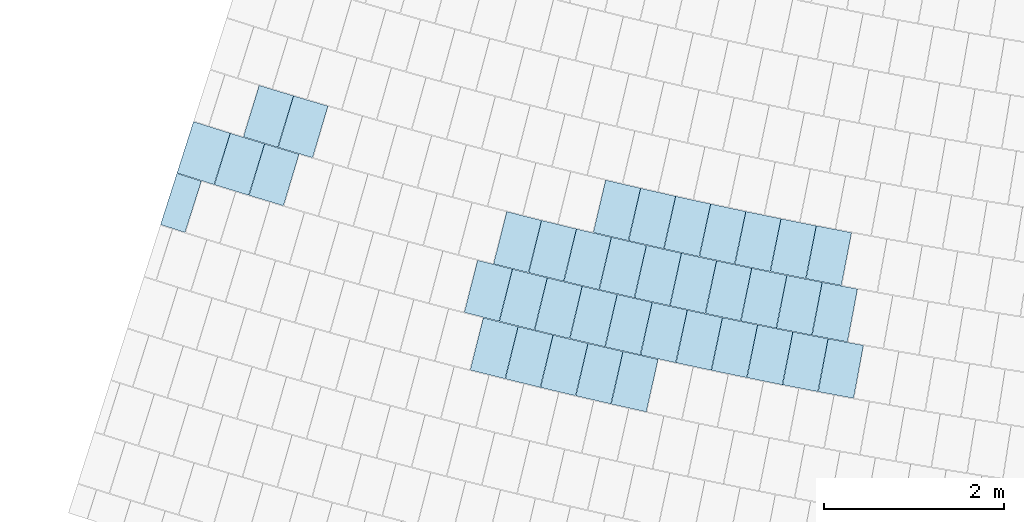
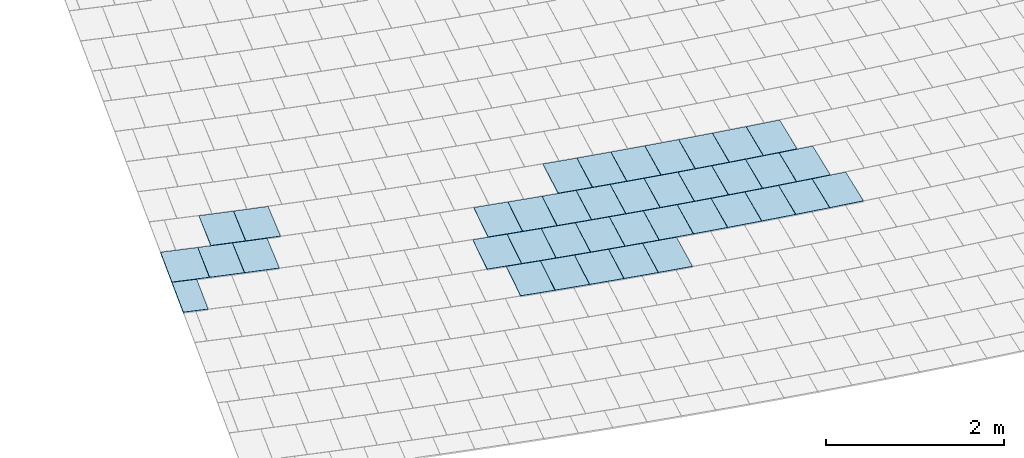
# One storey, part 19 of 438: 39 slabs.
"""IFC2X3 building model written with IfcOpenShell, lengths in millimetres."""

from ifc_helpers import new_model, entity, si_unit, converted_unit, derived_unit, direction, frame, origin, place, context, subcontext, project, spatial, polyline, outline, extrude, material, layer, layer_set, layer_usage, type_object, element, save


model = new_model("IFC2X3")

# Units and contexts
model_context = context("Model", 3, precision=0.01, world=origin(), true_north=direction((6.123031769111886e-17, 1.0)))
body_context = subcontext(model_context, "Body", "Model", "MODEL_VIEW")
ifc_project = project(units=[si_unit("LENGTHUNIT", "METRE", prefix="MILLI"), si_unit("AREAUNIT", "SQUARE_METRE"), si_unit("VOLUMEUNIT", "CUBIC_METRE"), converted_unit("PLANEANGLEUNIT", "DEGREE", entity("IfcRatioMeasure", 0.017453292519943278), si_unit("PLANEANGLEUNIT", "RADIAN"), dimensions=[0, 0, 0, 0, 0, 0, 0]), si_unit("MASSUNIT", "GRAM", prefix="KILO"), derived_unit("MASSDENSITYUNIT", [(si_unit("MASSUNIT", "GRAM", prefix="KILO"), 1), (si_unit("LENGTHUNIT", "METRE"), -3)]), derived_unit("MOMENTOFINERTIAUNIT", [(si_unit("LENGTHUNIT", "METRE"), 4)]), si_unit("TIMEUNIT", "SECOND"), si_unit("FREQUENCYUNIT", "HERTZ"), si_unit("THERMODYNAMICTEMPERATUREUNIT", "DEGREE_CELSIUS"), derived_unit("THERMALTRANSMITTANCEUNIT", [(si_unit("MASSUNIT", "GRAM", prefix="KILO"), 1), (si_unit("THERMODYNAMICTEMPERATUREUNIT", "KELVIN"), -1), (si_unit("TIMEUNIT", "SECOND"), -3)]), derived_unit("THERMALCONDUCTANCEUNIT", [(si_unit("MASSUNIT", "GRAM", prefix="KILO"), 1), (si_unit("LENGTHUNIT", "METRE"), 1), (si_unit("THERMODYNAMICTEMPERATUREUNIT", "KELVIN"), -1), (si_unit("TIMEUNIT", "SECOND"), -3)]), derived_unit("VOLUMETRICFLOWRATEUNIT", [(si_unit("LENGTHUNIT", "METRE"), 3), (si_unit("TIMEUNIT", "SECOND"), -1)]), derived_unit("MASSFLOWRATEUNIT", [(si_unit("MASSUNIT", "GRAM", prefix="KILO"), 1), (si_unit("TIMEUNIT", "SECOND"), -1)]), derived_unit("ROTATIONALFREQUENCYUNIT", [(si_unit("TIMEUNIT", "SECOND"), -1)]), si_unit("ELECTRICCURRENTUNIT", "AMPERE"), si_unit("ELECTRICVOLTAGEUNIT", "VOLT"), si_unit("POWERUNIT", "WATT"), converted_unit("FORCEUNIT", "KIP", entity("IfcRatioMeasure", 2.088543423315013e-05), si_unit("FORCEUNIT", "NEWTON"), dimensions=[1, 1, -2, 0, 0, 0, 0]), si_unit("ILLUMINANCEUNIT", "LUX"), si_unit("LUMINOUSFLUXUNIT", "LUMEN"), si_unit("LUMINOUSINTENSITYUNIT", "CANDELA"), derived_unit("USERDEFINED", [(si_unit("MASSUNIT", "GRAM", prefix="KILO"), -1), (si_unit("LENGTHUNIT", "METRE"), -2), (si_unit("TIMEUNIT", "SECOND"), 3), (si_unit("LUMINOUSFLUXUNIT", "LUMEN"), 1)]), derived_unit("USERDEFINED", [(si_unit("MASSUNIT", "GRAM", prefix="KILO"), 1), (si_unit("LENGTHUNIT", "METRE"), 3), (si_unit("TIMEUNIT", "SECOND"), -3), (si_unit("ELECTRICCURRENTUNIT", "AMPERE"), -2)]), derived_unit("USERDEFINED", [(si_unit("LENGTHUNIT", "METRE"), 2), (si_unit("TIMEUNIT", "SECOND"), -2)]), derived_unit("SOUNDPOWERUNIT", [(si_unit("MASSUNIT", "GRAM", prefix="KILO"), 1), (si_unit("LENGTHUNIT", "METRE"), 2), (si_unit("TIMEUNIT", "SECOND"), -3)]), derived_unit("SOUNDPRESSUREUNIT", [(si_unit("MASSUNIT", "GRAM", prefix="KILO"), 1), (si_unit("LENGTHUNIT", "METRE"), -1), (si_unit("TIMEUNIT", "SECOND"), -2)]), derived_unit("LINEARVELOCITYUNIT", [(si_unit("LENGTHUNIT", "METRE"), 1), (si_unit("TIMEUNIT", "SECOND"), -1)]), si_unit("PRESSUREUNIT", "PASCAL"), derived_unit("USERDEFINED", [(si_unit("LENGTHUNIT", "METRE"), -2), (si_unit("MASSUNIT", "GRAM", prefix="KILO"), 1), (si_unit("TIMEUNIT", "SECOND"), -2)]), derived_unit("LINEARFORCEUNIT", [(si_unit("MASSUNIT", "GRAM", prefix="KILO"), 1), (si_unit("LENGTHUNIT", "METRE"), 1), (si_unit("TIMEUNIT", "SECOND"), -2), (si_unit("LENGTHUNIT", "METRE"), -1)]), derived_unit("PLANARFORCEUNIT", [(si_unit("MASSUNIT", "GRAM", prefix="KILO"), 1), (si_unit("LENGTHUNIT", "METRE"), 1), (si_unit("TIMEUNIT", "SECOND"), -2), (si_unit("LENGTHUNIT", "METRE"), -2)]), derived_unit("SPECIFICHEATCAPACITYUNIT", [(si_unit("LENGTHUNIT", "METRE"), 2), (si_unit("TIMEUNIT", "SECOND"), -2), (si_unit("THERMODYNAMICTEMPERATUREUNIT", "KELVIN"), -1)]), derived_unit("VAPORPERMEABILITYUNIT", [(si_unit("TIMEUNIT", "SECOND"), 1), (si_unit("LENGTHUNIT", "METRE"), -1)]), derived_unit("DYNAMICVISCOSITYUNIT", [(si_unit("MASSUNIT", "GRAM", prefix="KILO"), 1), (si_unit("LENGTHUNIT", "METRE"), -1), (si_unit("TIMEUNIT", "SECOND"), -1)]), derived_unit("THERMALEXPANSIONCOEFFICIENTUNIT", [(si_unit("THERMODYNAMICTEMPERATUREUNIT", "KELVIN"), -1)])], contexts=[model_context])

# Site, building, storey
site_placement = place(None, frame((0.0, 0.0, 0.0), z_axis=(0.0, 0.0, 1.0), x_axis=(0.8191520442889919, 0.5735764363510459, 0.0)))
site = spatial("IfcSite", under=ifc_project, at=site_placement, Name="Default", CompositionType="ELEMENT")
building_placement = place(site_placement, origin())
building = spatial("IfcBuilding", under=site, at=building_placement, CompositionType="ELEMENT")
storey_placement = place(building_placement, origin())
storey = spatial("IfcBuildingStorey", under=building, at=storey_placement, Name="PLAN", CompositionType="ELEMENT", Elevation=0.0)

# Slabs
ifc_material = material(Name="Paint-01")
ifc_layer = layer(ifc_material, 20.00000000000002)
ifc_layer_set = layer_set([ifc_layer], Name="Floor:Slab-179:1000")
ifc_layer_usage = layer_usage(ifc_layer_set, "AXIS3", "POSITIVE", 0.0)
slab_type = type_object("IfcSlabType", Name="Floor:Slab-179:1000", PredefinedType="FLOOR", material=ifc_layer_set)
slab_1_placement = place(storey_placement, origin())
element("IfcSlab", 1, at=slab_1_placement, inside=storey, type_object=slab_type, material=ifc_layer_usage, Name="Floor:Slab-179:1000", ObjectType="Floor:Slab-179:1000", PredefinedType="FLOOR", context=body_context, shape_type="SweptSolid", body=[
    extrude(outline(polyline([(-200.00000134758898, -299.99999869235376), (200.00000453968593, -299.99999869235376), (200.00000134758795, 299.9999986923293), (-200.00000453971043, 299.99999869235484), (-200.00000134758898, -299.99999869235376)])), frame((-85861.89515844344, -109762.17310328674, 520.0), z_axis=(0.0, 0.0, -1.0), x_axis=(0.676337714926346, -0.7365916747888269, 0.0)), (0.0, 0.0, 1.0), 19.999999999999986),
])
slab_2_placement = place(storey_placement, origin())
element("IfcSlab", 2, at=slab_2_placement, inside=storey, type_object=slab_type, material=ifc_layer_usage, Name="Floor:Slab-179:1000", ObjectType="Floor:Slab-179:1000", PredefinedType="FLOOR", context=body_context, shape_type="SweptSolid", body=[
    extrude(outline(polyline([(-200.00000134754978, -299.9999986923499), (200.0000045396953, -299.9999986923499), (200.0000013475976, 299.9999986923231), (-200.00000453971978, 299.99999869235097), (-200.00000134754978, -299.9999986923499)])), frame((-85551.9471191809, -109204.7226449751, 520.0), z_axis=(0.0, 0.0, -1.0), x_axis=(0.6739158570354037, -0.7388081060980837, 0.0)), (0.0, 0.0, 1.0), 20.000000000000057),
])
slab_3_placement = place(storey_placement, origin())
element("IfcSlab", 3, at=slab_3_placement, inside=storey, type_object=slab_type, material=ifc_layer_usage, Name="Floor:Slab-179:1000", ObjectType="Floor:Slab-179:1000", PredefinedType="FLOOR", context=body_context, shape_type="SweptSolid", body=[
    extrude(outline(polyline([(-200.00000134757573, -299.9999986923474), (200.0000045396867, -299.9999986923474), (200.0000013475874, 299.9999986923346), (-200.00000453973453, 299.9999986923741), (-200.00000134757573, -299.9999986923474)])), frame((-86443.2148564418, -110023.10974429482, 520.0), z_axis=(0.0, 0.0, -1.0), x_axis=(0.6739630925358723, -0.7387650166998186, 0.0)), (0.0, 0.0, 1.0), 20.000000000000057),
])
slab_4_placement = place(storey_placement, origin())
element("IfcSlab", 4, at=slab_4_placement, inside=storey, type_object=slab_type, material=ifc_layer_usage, Name="Floor:Slab-179:1000", ObjectType="Floor:Slab-179:1000", PredefinedType="FLOOR", context=body_context, shape_type="SweptSolid", body=[
    extrude(outline(polyline([(-200.00000134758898, -299.99999869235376), (200.00000453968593, -299.99999869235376), (200.0000013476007, 299.999998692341), (-200.00000453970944, 299.9999986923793), (-200.00000134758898, -299.99999869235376)])), frame((-84970.619231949, -108943.80446822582, 520.0), z_axis=(0.0, 0.0, -1.0), x_axis=(0.676337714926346, -0.7365916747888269, 0.0)), (0.0, 0.0, 1.0), 19.999999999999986),
])
slab_5_placement = place(storey_placement, origin())
element("IfcSlab", 5, at=slab_5_placement, inside=storey, type_object=slab_type, material=ifc_layer_usage, Name="Floor:Slab-179:1000", ObjectType="Floor:Slab-179:1000", PredefinedType="FLOOR", context=body_context, shape_type="SweptSolid", body=[
    extrude(outline(polyline([(-200.00000134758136, -299.9999986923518), (200.0000045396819, -299.9999986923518), (200.00000134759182, 299.99999869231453), (-200.000004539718, 299.99999869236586), (-200.00000134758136, -299.9999986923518)])), frame((-85241.51510024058, -108646.8040326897, 520.0), z_axis=(0.0, 0.0, -1.0), x_axis=(0.671437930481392, -0.7410607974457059, 0.0)), (0.0, 0.0, 1.0), 20.000000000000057),
])
slab_6_placement = place(storey_placement, origin())
element("IfcSlab", 6, at=slab_6_placement, inside=storey, type_object=slab_type, material=ifc_layer_usage, Name="Floor:Slab-179:1000", ObjectType="Floor:Slab-179:1000", PredefinedType="FLOOR", context=body_context, shape_type="SweptSolid", body=[
    extrude(outline(polyline([(-200.00000134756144, -299.9999986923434), (200.00000453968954, -299.99999869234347), (200.0000013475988, 299.99999869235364), (-200.0000045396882, 299.99999869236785), (-200.00000134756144, -299.9999986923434)])), frame((-85510.43537085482, -108348.01360744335, 520.0), z_axis=(0.0, 0.0, -1.0), x_axis=(0.6665086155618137, -0.7454973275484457, 0.0)), (0.0, 0.0, 1.0), 20.000000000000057),
])
slab_7_placement = place(storey_placement, origin())
element("IfcSlab", 7, at=slab_7_placement, inside=storey, type_object=slab_type, material=ifc_layer_usage, Name="Floor:Slab-179:1000", ObjectType="Floor:Slab-179:1000", PredefinedType="FLOOR", context=body_context, shape_type="SweptSolid", body=[
    extrude(outline(polyline([(-200.00000134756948, -299.9999986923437), (200.00000453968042, -299.9999986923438), (200.00000134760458, 299.9999986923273), (-200.0000045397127, 299.9999986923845), (-200.00000134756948, -299.9999986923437)])), frame((-87839.89347691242, -105580.54404082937, 520.0), z_axis=(0.0, 0.0, -1.0), x_axis=(0.6208521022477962, -0.7839277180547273, 0.0)), (0.0, 0.0, 1.0), 20.000000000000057),
])
slab_8_placement = place(storey_placement, origin())
element("IfcSlab", 8, at=slab_8_placement, inside=storey, type_object=slab_type, material=ifc_layer_usage, Name="Floor:Slab-179:1000", ObjectType="Floor:Slab-179:1000", PredefinedType="FLOOR", context=body_context, shape_type="SweptSolid", body=[
    extrude(outline(polyline([(-200.00000134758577, -299.99999869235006), (200.00000453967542, -299.99999869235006), (200.00000134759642, 299.99999869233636), (-200.00000453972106, 299.99999869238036), (-200.00000134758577, -299.99999869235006)])), frame((-88088.4218565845, -105264.58917908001, 520.0), z_axis=(0.0, 0.0, -1.0), x_axis=(0.615639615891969, -0.7880278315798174, 0.0)), (0.0, 0.0, 1.0), 19.999999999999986),
])
slab_9_placement = place(storey_placement, origin())
element("IfcSlab", 9, at=slab_9_placement, inside=storey, type_object=slab_type, material=ifc_layer_usage, Name="Floor:Slab-179:1000", ObjectType="Floor:Slab-179:1000", PredefinedType="FLOOR", context=body_context, shape_type="SweptSolid", body=[
    extrude(outline(polyline([(-299.9999976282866, -200.0000029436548), (300.0, -200.00000294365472), (299.9999976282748, 200.0000029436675), (-300.0, 200.00000294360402), (-299.9999976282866, -200.0000029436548)])), frame((-84697.75968901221, -109239.00184226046, 520.0), z_axis=(0.0, 0.0, -1.0), x_axis=(-0.7320901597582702, -0.6812077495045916, 0.0)), (0.0, 0.0, 1.0), 20.000000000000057),
])
slab_10_placement = place(storey_placement, origin())
element("IfcSlab", 10, at=slab_10_placement, inside=storey, type_object=slab_type, material=ifc_layer_usage, Name="Floor:Slab-179:1000", ObjectType="Floor:Slab-179:1000", PredefinedType="FLOOR", context=body_context, shape_type="SweptSolid", body=[
    extrude(outline(polyline([(-299.99999762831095, -200.00000294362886), (300.0, -200.00000294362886), (299.9999976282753, 200.00000294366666), (-300.0, 200.00000294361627), (-299.99999762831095, -200.00000294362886)])), frame((-84422.9484545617, -109532.38319065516, 520.0), z_axis=(0.0, 0.0, -1.0), x_axis=(-0.7275564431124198, -0.6860478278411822, 0.0)), (0.0, 0.0, 1.0), 20.000000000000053),
])
slab_11_placement = place(storey_placement, origin())
element("IfcSlab", 11, at=slab_11_placement, inside=storey, type_object=slab_type, material=ifc_layer_usage, Name="Floor:Slab-179:1000", ObjectType="Floor:Slab-179:1000", PredefinedType="FLOOR", context=body_context, shape_type="SweptSolid", body=[
    extrude(outline(polyline([(-299.99999762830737, -200.00000294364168), (300.0, -200.00000294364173), (299.9999976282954, 200.0000029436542), (-300.0, 200.00000294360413), (-299.99999762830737, -200.00000294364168)])), frame((-84146.19762376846, -109823.93560073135, 520.0), z_axis=(0.0, 0.0, -1.0), x_axis=(-0.7229907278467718, -0.690857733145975, 0.0)), (0.0, 0.0, 1.0), 20.000000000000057),
])
slab_12_placement = place(storey_placement, origin())
element("IfcSlab", 12, at=slab_12_placement, inside=storey, type_object=slab_type, material=ifc_layer_usage, Name="Floor:Slab-179:1000", ObjectType="Floor:Slab-179:1000", PredefinedType="FLOOR", context=body_context, shape_type="SweptSolid", body=[
    extrude(outline(polyline([(-299.99999762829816, -200.00000294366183), (300.0, -200.00000294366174), (299.99999762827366, 200.0000029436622), (-300.0, 200.0000029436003), (-299.99999762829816, -200.00000294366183)])), frame((-83867.51936839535, -110113.64624973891, 520.0), z_axis=(0.0, 0.0, -1.0), x_axis=(-0.7183932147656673, -0.6956372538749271, 0.0)), (0.0, 0.0, 1.0), 19.99999999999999),
])
slab_13_placement = place(storey_placement, origin())
element("IfcSlab", 13, at=slab_13_placement, inside=storey, type_object=slab_type, material=ifc_layer_usage, Name="Floor:Slab-179:1000", ObjectType="Floor:Slab-179:1000", PredefinedType="FLOOR", context=body_context, shape_type="SweptSolid", body=[
    extrude(outline(polyline([(-200.00000134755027, -299.9999986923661), (200.00000453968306, -299.9999986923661), (200.0000013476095, 299.99999869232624), (-200.00000453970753, 299.9999986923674), (-200.00000134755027, -299.9999986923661)])), frame((-85821.863053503, -108906.8579627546, 520.0), z_axis=(0.0, 0.0, -1.0), x_axis=(0.6690503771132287, -0.7432170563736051, 0.0)), (0.0, 0.0, 1.0), 20.000000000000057),
])
slab_14_placement = place(storey_placement, origin())
element("IfcSlab", 14, at=slab_14_placement, inside=storey, type_object=slab_type, material=ifc_layer_usage, Name="Floor:Slab-179:1000", ObjectType="Floor:Slab-179:1000", PredefinedType="FLOOR", context=body_context, shape_type="SweptSolid", body=[
    extrude(outline(polyline([(-200.00000134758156, -299.99999869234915), (200.00000453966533, -299.9999986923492), (200.00000134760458, 299.99999869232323), (-200.00000453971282, 299.99999869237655), (-200.00000134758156, -299.99999869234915)])), frame((-86089.81741461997, -108607.22745550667, 520.0), z_axis=(0.0, 0.0, -1.0), x_axis=(0.6641560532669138, -0.7475939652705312, 0.0)), (0.0, 0.0, 1.0), 20.000000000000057),
])
slab_15_placement = place(storey_placement, origin())
element("IfcSlab", 15, at=slab_15_placement, inside=storey, type_object=slab_type, material=ifc_layer_usage, Name="Floor:Slab-179:1000", ObjectType="Floor:Slab-179:1000", PredefinedType="FLOOR", context=body_context, shape_type="SweptSolid", body=[
    extrude(outline(polyline([(-200.00000134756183, -299.9999986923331), (200.0000045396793, -299.9999986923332), (200.0000013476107, 299.99999869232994), (-200.00000453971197, 299.9999986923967), (-200.00000134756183, -299.9999986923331)])), frame((-86355.79865055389, -108305.8440408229, 520.0), z_axis=(0.0, 0.0, -1.0), x_axis=(0.6592330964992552, -0.7519386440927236, 0.0)), (0.0, 0.0, 1.0), 20.000000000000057),
])
slab_16_placement = place(storey_placement, origin())
element("IfcSlab", 16, at=slab_16_placement, inside=storey, type_object=slab_type, material=ifc_layer_usage, Name="Floor:Slab-179:1000", ObjectType="Floor:Slab-179:1000", PredefinedType="FLOOR", context=body_context, shape_type="SweptSolid", body=[
    extrude(outline(polyline([(-200.00000134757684, -299.99999869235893), (200.00000453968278, -299.99999869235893), (200.0000013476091, 299.9999986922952), (-200.0000045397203, 299.9999986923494), (-200.00000134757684, -299.99999869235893)])), frame((-86619.79529439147, -108002.72071186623, 520.0), z_axis=(0.0, 0.0, -1.0), x_axis=(0.6542817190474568, -0.7562509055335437, 0.0)), (0.0, 0.0, 1.0), 20.000000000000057),
])
slab_17_placement = place(storey_placement, origin())
element("IfcSlab", 17, at=slab_17_placement, inside=storey, type_object=slab_type, material=ifc_layer_usage, Name="Floor:Slab-179:1000", ObjectType="Floor:Slab-179:1000", PredefinedType="FLOOR", context=body_context, shape_type="SweptSolid", body=[
    extrude(outline(polyline([(-200.00000134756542, -299.99999869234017), (200.00000453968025, -299.99999869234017), (200.00000134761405, 299.99999869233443), (-200.00000453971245, 299.999998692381), (-200.00000134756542, -299.99999869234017)])), frame((-88411.25809215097, -105833.24684479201, 520.0), z_axis=(0.0, 0.0, -1.0), x_axis=(0.6188443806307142, -0.7855136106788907, 0.0)), (0.0, 0.0, 1.0), 20.000000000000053),
])
slab_18_placement = place(storey_placement, origin())
element("IfcSlab", 18, at=slab_18_placement, inside=storey, type_object=slab_type, material=ifc_layer_usage, Name="Floor:Slab-179:1000", ObjectType="Floor:Slab-179:1000", PredefinedType="FLOOR", context=body_context, shape_type="SweptSolid", body=[
    extrude(outline(polyline([(-200.0000013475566, -299.99999869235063), (200.0000045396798, -299.99999869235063), (200.00000134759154, 299.99999869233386), (-200.00000453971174, 299.99999869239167), (-200.0000013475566, -299.99999869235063)])), frame((-88658.97555955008, -105516.68083767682, 520.0), z_axis=(0.0, 0.0, -1.0), x_axis=(0.6136734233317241, -0.7895599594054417, 0.0)), (0.0, 0.0, 1.0), 19.999999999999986),
])
slab_19_placement = place(storey_placement, origin())
element("IfcSlab", 19, at=slab_19_placement, inside=storey, type_object=slab_type, material=ifc_layer_usage, Name="Floor:Slab-179:1000", ObjectType="Floor:Slab-179:1000", PredefinedType="FLOOR", context=body_context, shape_type="SweptSolid", body=[
    extrude(outline(polyline([(-213.9437312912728, -299.9999986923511), (215.07151798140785, -299.9999986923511), (215.0715147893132, 299.9999986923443), (-216.19930147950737, 299.9999986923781), (-213.9437312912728, -299.9999986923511)])), frame((-88913.77979525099, -105186.53482684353, 520.0), z_axis=(0.0, 0.0, -1.0), x_axis=(0.6084760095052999, -0.7935722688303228, 0.0)), (0.0, 0.0, 1.0), 20.000000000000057),
])
slab_20_placement = place(storey_placement, origin())
element("IfcSlab", 20, at=slab_20_placement, inside=storey, type_object=slab_type, material=ifc_layer_usage, Name="Floor:Slab-179:1000", ObjectType="Floor:Slab-179:1000", PredefinedType="FLOOR", context=body_context, shape_type="SweptSolid", body=[
    extrude(outline(polyline([(-299.9999976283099, -200.00000294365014), (300.0, -200.00000294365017), (299.99999762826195, 200.00000294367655), (-300.0, 200.0000029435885), (-299.9999976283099, -200.00000294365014)])), frame((-85280.08126130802, -109500.80864652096, 520.0), z_axis=(0.0, 0.0, -1.0), x_axis=(-0.7343673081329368, -0.6787522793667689, 0.0)), (0.0, 0.0, 1.0), 20.000000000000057),
])
slab_21_placement = place(storey_placement, origin())
element("IfcSlab", 21, at=slab_21_placement, inside=storey, type_object=slab_type, material=ifc_layer_usage, Name="Floor:Slab-179:1000", ObjectType="Floor:Slab-179:1000", PredefinedType="FLOOR", context=body_context, shape_type="SweptSolid", body=[
    extrude(outline(polyline([(-299.9999976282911, -200.0000029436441), (300.0, -200.0000029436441), (299.99999762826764, 200.00000294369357), (-300.0, 200.00000294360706), (-299.9999976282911, -200.0000029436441)])), frame((-84452.90165206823, -110378.26743390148, 520.0), z_axis=(0.0, 0.0, -1.0), x_axis=(-0.7208557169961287, -0.6930851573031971, 0.0)), (0.0, 0.0, 1.0), 20.000000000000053),
])
slab_22_placement = place(storey_placement, origin())
element("IfcSlab", 22, at=slab_22_placement, inside=storey, type_object=slab_type, material=ifc_layer_usage, Name="Floor:Slab-179:1000", ObjectType="Floor:Slab-179:1000", PredefinedType="FLOOR", context=body_context, shape_type="SweptSolid", body=[
    extrude(outline(polyline([(-299.9999976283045, -200.0000029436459), (300.0, -200.00000294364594), (299.9999976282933, 200.000002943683), (-300.0, 200.00000294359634), (-299.9999976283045, -200.0000029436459)])), frame((-84730.54667554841, -110087.59369678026, 520.0), z_axis=(0.0, 0.0, -1.0), x_axis=(-0.7253909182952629, -0.6883371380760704, 0.0)), (0.0, 0.0, 1.0), 20.000000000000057),
])
slab_23_placement = place(storey_placement, origin())
element("IfcSlab", 23, at=slab_23_placement, inside=storey, type_object=slab_type, material=ifc_layer_usage, Name="Floor:Slab-179:1000", ObjectType="Floor:Slab-179:1000", PredefinedType="FLOOR", context=body_context, shape_type="SweptSolid", body=[
    extrude(outline(polyline([(-299.999997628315, -200.0000029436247), (300.0, -200.00000294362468), (299.99999762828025, 200.00000294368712), (-300.0, 200.00000294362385), (-299.999997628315, -200.0000029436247)])), frame((-85006.2771743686, -109795.10323106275, 520.0), z_axis=(0.0, 0.0, -1.0), x_axis=(-0.7298948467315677, -0.6835594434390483, 0.0)), (0.0, 0.0, 1.0), 20.000000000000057),
])
slab_24_placement = place(storey_placement, origin())
element("IfcSlab", 24, at=slab_24_placement, inside=storey, type_object=slab_type, material=ifc_layer_usage, Name="Floor:Slab-179:1000", ObjectType="Floor:Slab-179:1000", PredefinedType="FLOOR", context=body_context, shape_type="SweptSolid", body=[
    extrude(outline(polyline([(-299.99999762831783, -200.00000294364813), (300.0, -200.00000294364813), (299.99999762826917, 200.00000294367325), (-300.0, 200.00000294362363), (-299.99999762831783, -200.00000294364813)])), frame((-84173.35407368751, -110667.11191097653, 520.0), z_axis=(0.0, 0.0, -1.0), x_axis=(-0.7162894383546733, -0.6978032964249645, 0.0)), (0.0, 0.0, 1.0), 20.000000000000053),
])
slab_25_placement = place(storey_placement, origin())
element("IfcSlab", 25, at=slab_25_placement, inside=storey, type_object=slab_type, material=ifc_layer_usage, Name="Floor:Slab-179:1000", ObjectType="Floor:Slab-179:1000", PredefinedType="FLOOR", context=body_context, shape_type="SweptSolid", body=[
    extrude(outline(polyline([(-200.00000134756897, -299.99999869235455), (200.00000453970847, -299.9999986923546), (200.00000134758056, 299.99999869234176), (-200.00000453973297, 299.9999986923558), (-200.00000134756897, -299.99999869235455)])), frame((-86132.78408257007, -109465.21917794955, 520.0), z_axis=(0.0, 0.0, -1.0), x_axis=(0.6715345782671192, -0.7409732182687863, 0.0)), (0.0, 0.0, 1.0), 20.000000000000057),
])
slab_26_placement = place(storey_placement, origin())
element("IfcSlab", 26, at=slab_26_placement, inside=storey, type_object=slab_type, material=ifc_layer_usage, Name="Floor:Slab-179:1000", ObjectType="Floor:Slab-179:1000", PredefinedType="FLOOR", context=body_context, shape_type="SweptSolid", body=[
    extrude(outline(polyline([(-200.0000013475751, -299.9999986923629), (200.00000453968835, -299.9999986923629), (200.00000134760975, 299.99999869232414), (-200.0000045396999, 299.9999986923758), (-200.0000013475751, -299.9999986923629)])), frame((-86401.73667925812, -109166.51038376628, 520.0), z_axis=(0.0, 0.0, -1.0), x_axis=(0.6667030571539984, -0.7453234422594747, 0.0)), (0.0, 0.0, 1.0), 20.000000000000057),
])
slab_27_placement = place(storey_placement, origin())
element("IfcSlab", 27, at=slab_27_placement, inside=storey, type_object=slab_type, material=ifc_layer_usage, Name="Floor:Slab-179:1000", ObjectType="Floor:Slab-179:1000", PredefinedType="FLOOR", context=body_context, shape_type="SweptSolid", body=[
    extrude(outline(polyline([(-200.0000013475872, -299.9999986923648), (200.00000453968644, -299.9999986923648), (200.00000134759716, 299.9999986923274), (-200.00000453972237, 299.99999869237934), (-200.0000013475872, -299.9999986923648)])), frame((-86668.74158040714, -108866.0593465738, 520.0), z_axis=(0.0, 0.0, -1.0), x_axis=(0.6618433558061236, -0.7496421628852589, 0.0)), (0.0, 0.0, 1.0), 19.999999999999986),
])
slab_28_placement = place(storey_placement, origin())
element("IfcSlab", 28, at=slab_28_placement, inside=storey, type_object=slab_type, material=ifc_layer_usage, Name="Floor:Slab-179:1000", ObjectType="Floor:Slab-179:1000", PredefinedType="FLOOR", context=body_context, shape_type="SweptSolid", body=[
    extrude(outline(polyline([(-200.00000134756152, -299.9999986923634), (200.00000453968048, -299.9999986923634), (200.00000134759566, 299.99999869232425), (-200.0000045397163, 299.99999869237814), (-200.00000134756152, -299.9999986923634)])), frame((-86933.78750024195, -108563.87876585, 520.0), z_axis=(0.0, 0.0, -1.0), x_axis=(0.6569556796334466, -0.7539291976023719, 0.0)), (0.0, 0.0, 1.0), 20.000000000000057),
])
slab_29_placement = place(storey_placement, origin())
element("IfcSlab", 29, at=slab_29_placement, inside=storey, type_object=slab_type, material=ifc_layer_usage, Name="Floor:Slab-179:1000", ObjectType="Floor:Slab-179:1000", PredefinedType="FLOOR", context=body_context, shape_type="SweptSolid", body=[
    extrude(outline(polyline([(-200.00000134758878, -299.99999869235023), (200.00000453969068, -299.99999869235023), (200.00000134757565, 299.9999986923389), (-200.00000453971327, 299.9999986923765), (-200.00000134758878, -299.99999869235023)])), frame((-87196.86323578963, -108259.98141417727, 520.0), z_axis=(0.0, 0.0, -1.0), x_axis=(0.6520402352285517, -0.758184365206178, 0.0)), (0.0, 0.0, 1.0), 19.99999999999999),
])
slab_30_placement = place(storey_placement, origin())
element("IfcSlab", 30, at=slab_30_placement, inside=storey, type_object=slab_type, material=ifc_layer_usage, Name="Floor:Slab-179:1000", ObjectType="Floor:Slab-179:1000", PredefinedType="FLOOR", context=body_context, shape_type="SweptSolid", body=[
    extrude(outline(polyline([(-299.99999762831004, -200.00000294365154), (300.0, -200.00000294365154), (299.9999976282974, 200.00000294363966), (-300.0, 200.0000029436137), (-299.99999762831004, -200.00000294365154)])), frame((-85314.35422668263, -110350.76619673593, 520.0), z_axis=(0.0, 0.0, -1.0), x_axis=(-0.7277353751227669, -0.6858580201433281, 0.0)), (0.0, 0.0, 1.0), 20.000000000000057),
])
slab_31_placement = place(storey_placement, origin())
element("IfcSlab", 31, at=slab_31_placement, inside=storey, type_object=slab_type, material=ifc_layer_usage, Name="Floor:Slab-179:1000", ObjectType="Floor:Slab-179:1000", PredefinedType="FLOOR", context=body_context, shape_type="SweptSolid", body=[
    extrude(outline(polyline([(-142.2511787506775, -299.9999986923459), (142.66523998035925, -299.99999869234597), (142.66523678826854, 299.99999869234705), (-143.0792980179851, 299.9999986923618), (-142.2511787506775, -299.9999986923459)])), frame((-89439.3011785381, -105495.37566766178, 520.0), z_axis=(0.0, 0.0, -1.0), x_axis=(0.6065863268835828, -0.7950176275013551, 0.0)), (0.0, 0.0, 1.0), 20.000000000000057),
])
slab_32_placement = place(storey_placement, origin())
element("IfcSlab", 32, at=slab_32_placement, inside=storey, type_object=slab_type, material=ifc_layer_usage, Name="Floor:Slab-179:1000", ObjectType="Floor:Slab-179:1000", PredefinedType="FLOOR", context=body_context, shape_type="SweptSolid", body=[
    extrude(outline(polyline([(-299.9999976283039, -200.0000029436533), (300.0, -200.00000294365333), (299.99999762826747, 200.0000029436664), (-300.0, 200.00000294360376), (-299.9999976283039, -200.0000029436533)])), frame((-85037.72534498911, -110642.38050502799, 520.0), z_axis=(0.0, 0.0, -1.0), x_axis=(-0.7232609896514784, -0.6905747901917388, 0.0)), (0.0, 0.0, 1.0), 20.000000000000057),
])
slab_33_placement = place(storey_placement, origin())
element("IfcSlab", 33, at=slab_33_placement, inside=storey, type_object=slab_type, material=ifc_layer_usage, Name="Floor:Slab-179:1000", ObjectType="Floor:Slab-179:1000", PredefinedType="FLOOR", context=body_context, shape_type="SweptSolid", body=[
    extrude(outline(polyline([(-299.99999762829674, -200.00000294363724), (300.0, -200.0000029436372), (299.99999762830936, 200.0000029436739), (-300.0, 200.00000294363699), (-299.99999762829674, -200.00000294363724)])), frame((-84478.80922971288, -111220.18299646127, 520.0), z_axis=(0.0, 0.0, -1.0), x_axis=(-0.7142206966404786, -0.6999205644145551, 0.0)), (0.0, 0.0, 1.0), 20.000000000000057),
])
slab_34_placement = place(storey_placement, origin())
element("IfcSlab", 34, at=slab_34_placement, inside=storey, type_object=slab_type, material=ifc_layer_usage, Name="Floor:Slab-179:1000", ObjectType="Floor:Slab-179:1000", PredefinedType="FLOOR", context=body_context, shape_type="SweptSolid", body=[
    extrude(outline(polyline([(-299.99999762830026, -200.0000029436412), (300.0, -200.0000029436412), (299.99999762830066, 200.0000029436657), (-300.0, 200.00000294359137), (-299.99999762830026, -200.0000029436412)])), frame((-84759.20642184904, -110932.19018816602, 520.0), z_axis=(0.0, 0.0, -1.0), x_axis=(-0.7187560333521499, -0.6952623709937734, 0.0)), (0.0, 0.0, 1.0), 20.000000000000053),
])
slab_35_placement = place(storey_placement, origin())
element("IfcSlab", 35, at=slab_35_placement, inside=storey, type_object=slab_type, material=ifc_layer_usage, Name="Floor:Slab-179:1000", ObjectType="Floor:Slab-179:1000", PredefinedType="FLOOR", context=body_context, shape_type="SweptSolid", body=[
    extrude(outline(polyline([(-299.99999762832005, -200.00000294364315), (300.0, -200.00000294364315), (299.99999762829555, 200.00000294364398), (-300.0, 200.00000294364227), (-299.99999762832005, -200.00000294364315)])), frame((-85589.08137436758, -110057.35958925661, 520.0), z_axis=(0.0, 0.0, -1.0), x_axis=(-0.7321790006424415, -0.6811122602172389, 0.0)), (0.0, 0.0, 1.0), 19.99999999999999),
])
slab_36_placement = place(storey_placement, origin())
element("IfcSlab", 36, at=slab_36_placement, inside=storey, type_object=slab_type, material=ifc_layer_usage, Name="Floor:Slab-179:1000", ObjectType="Floor:Slab-179:1000", PredefinedType="FLOOR", context=body_context, shape_type="SweptSolid", body=[
    extrude(outline(polyline([(-200.0000013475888, -299.9999986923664), (200.00000453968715, -299.9999986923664), (200.00000134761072, 299.9999986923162), (-200.00000453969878, 299.9999986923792), (-200.0000013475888, -299.9999986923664)])), frame((-86713.14317028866, -109725.30794135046, 520.0), z_axis=(0.0, 0.0, -1.0), x_axis=(0.6691929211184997, -0.7430887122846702, 0.0)), (0.0, 0.0, 1.0), 20.000000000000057),
])
slab_37_placement = place(storey_placement, origin())
element("IfcSlab", 37, at=slab_37_placement, inside=storey, type_object=slab_type, material=ifc_layer_usage, Name="Floor:Slab-179:1000", ObjectType="Floor:Slab-179:1000", PredefinedType="FLOOR", context=body_context, shape_type="SweptSolid", body=[
    extrude(outline(polyline([(-200.00000134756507, -299.9999986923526), (200.00000453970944, -299.9999986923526), (200.00000134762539, 299.9999986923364), (-200.00000453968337, 299.99999869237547), (-200.00000134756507, -299.9999986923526)])), frame((-87247.22012109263, -109124.5218325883, 520.0), z_axis=(0.0, 0.0, -1.0), x_axis=(0.6595695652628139, -0.7516435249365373, 0.0)), (0.0, 0.0, 1.0), 19.999999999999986),
])
slab_38_placement = place(storey_placement, origin())
element("IfcSlab", 38, at=slab_38_placement, inside=storey, type_object=slab_type, material=ifc_layer_usage, Name="Floor:Slab-179:1000", ObjectType="Floor:Slab-179:1000", PredefinedType="FLOOR", context=body_context, shape_type="SweptSolid", body=[
    extrude(outline(polyline([(-200.00000134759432, -299.99999869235), (200.00000453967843, -299.99999869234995), (200.00000134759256, 299.99999869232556), (-200.00000453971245, 299.9999986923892), (-200.00000134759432, -299.99999869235)])), frame((-87511.34662115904, -108821.56242868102, 520.0), z_axis=(0.0, 0.0, -1.0), x_axis=(0.6547167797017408, -0.7558742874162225, 0.0)), (0.0, 0.0, 1.0), 20.000000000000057),
])
slab_39_placement = place(storey_placement, origin())
element("IfcSlab", 39, at=slab_39_placement, inside=storey, type_object=slab_type, material=ifc_layer_usage, Name="Floor:Slab-179:1000", ObjectType="Floor:Slab-179:1000", PredefinedType="FLOOR", context=body_context, shape_type="SweptSolid", body=[
    extrude(outline(polyline([(-200.00000134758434, -299.99999869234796), (200.0000045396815, -299.99999869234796), (200.00000134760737, 299.99999869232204), (-200.00000453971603, 299.9999986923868), (-200.00000134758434, -299.99999869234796)])), frame((-86981.14862801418, -109425.7744990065, 520.0), z_axis=(0.0, 0.0, -1.0), x_axis=(0.6643950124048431, -0.7473816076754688, 0.0)), (0.0, 0.0, 1.0), 20.000000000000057),
])

save(model, "model.ifc")
